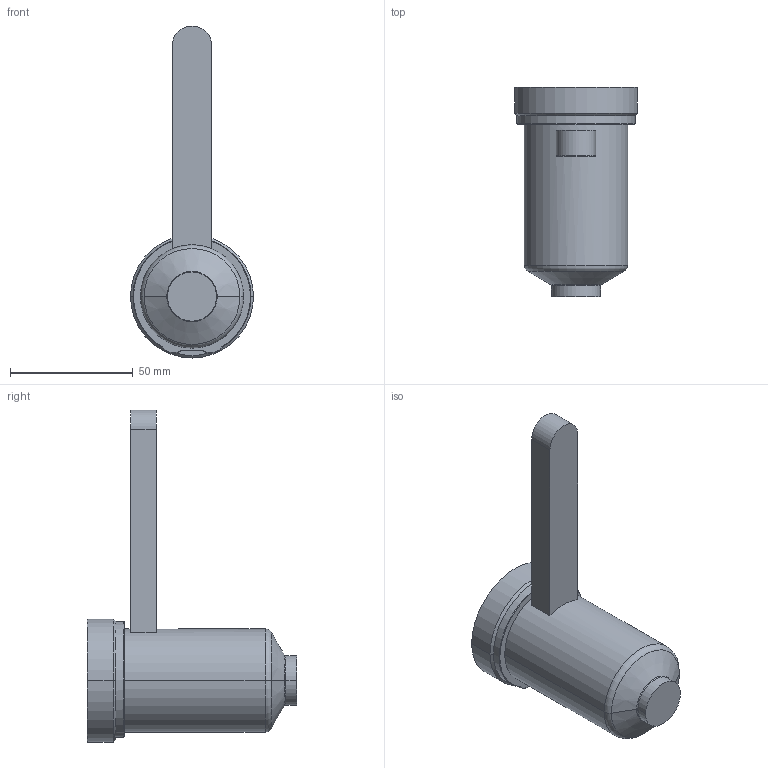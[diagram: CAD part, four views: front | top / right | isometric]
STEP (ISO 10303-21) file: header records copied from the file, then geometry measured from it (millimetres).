
FILE_DESCRIPTION((''),'2;1');
FILE_NAME('EO16_VG-FB_STD_070_COT','2024-02-19T13:42:13',('sundharh'),(''),'CREO PARAMETRIC BY PTC INC, 2023154','CREO PARAMETRIC BY PTC INC, 2023154','');
FILE_SCHEMA(('CONFIG_CONTROL_DESIGN'));
Length unit declared in the file: millimetre
Products named in the file (1): EO16_VG-FB_STD_070_COT
Bounding box: 50 x 85 x 135 mm (x, y, z)
Volume: 131626.6 mm3; surface area: 18987.5 mm2
Topology: 1 solids, 1 shells, 31 faces, 67 edges, 40 vertices
Faces by surface type: cylinder 11, plane 9, torus 7, cone 4
Entity records: 967 total; most frequent: CARTESIAN_POINT 234, DIRECTION 159, ORIENTED_EDGE 134, AXIS2_PLACEMENT_3D 67, EDGE_CURVE 67, VERTEX_POINT 40, CIRCLE 36, EDGE_LOOP 33
